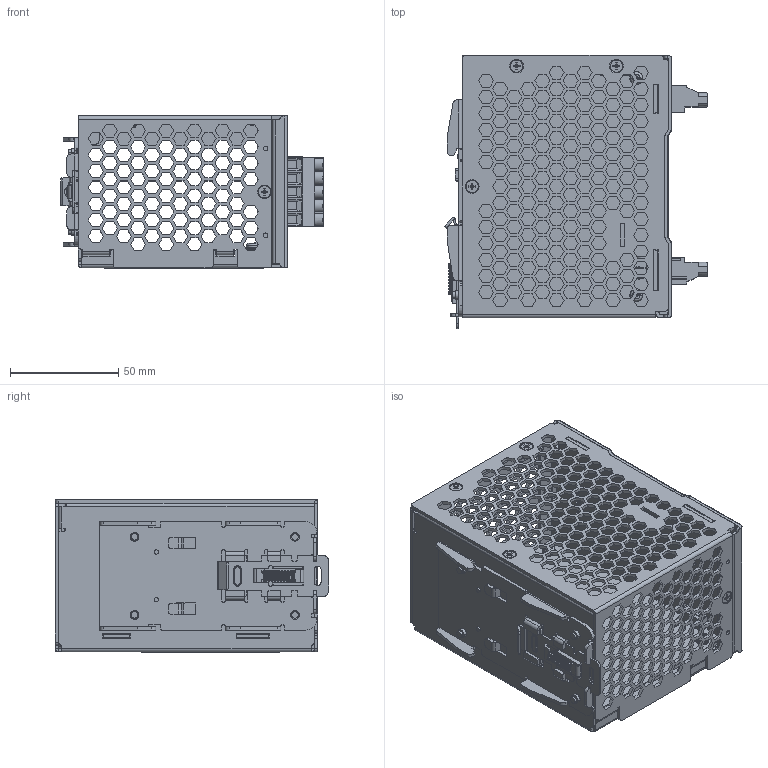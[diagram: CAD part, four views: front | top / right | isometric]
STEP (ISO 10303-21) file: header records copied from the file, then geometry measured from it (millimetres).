
FILE_DESCRIPTION((''),'2;1');
FILE_NAME('PD00-DRB-24V040ABN_ASM','2014-09-17T',('Pattrapol.seng'),(''),'PRO/ENGINEER BY PARAMETRIC TECHNOLOGY CORPORATION, 2010180','PRO/ENGINEER BY PARAMETRIC TECHNOLOGY CORPORATION, 2010180','');
FILE_SCHEMA(('CONFIG_CONTROL_DESIGN'));
Products named in the file (26): 331064530506; 331064530506_A1_STUD; 331064530506_ASM; 331064520202; 330310970202; 3268190300; 2958066300_MAINBOARD; 3000052333_SLIDE_SWITCH; ASSY_PWB_DRB-24V040ABN_ASM; 2968138303_DCT-1383; 2968121401_DCT-1214; 2968121500_DCT-1215; 3073461946_CN1; 3073461746_CN2; EE_LED701; 3350141500; ASSY_DCT-1383_ASM; 3461303000; 3460088100; 3462026200; ASSY_BASE_ASM; 3100300600; 3100020600; 3105318101; 326354720101; PD00-DRB-24V040ABN_ASM
Assembly tree (37 placements, depth 3):
  PD00-DRB-24V040ABN_ASM
    331064530506_ASM
      331064530506
      331064530506_A1_STUD  x2
    331064520202
    330310970202
    3268190300
    ASSY_PWB_DRB-24V040ABN_ASM
      2958066300_MAINBOARD
      3000052333_SLIDE_SWITCH
    ASSY_DCT-1383_ASM
      2968138303_DCT-1383
      2968121401_DCT-1214
      2968121500_DCT-1215
      3073461946_CN1
      3073461746_CN2
      EE_LED701
      3350141500  x4
    ASSY_BASE_ASM
      3461303000
      3460088100
      3462026200
    3100300600  x2
    3100020600  x4
    3105318101  x5
    326354720101
Bounding box: 121.24 x 126 x 70.1 mm (x, y, z)
Volume: 113242.6 mm3; surface area: 182679.5 mm2
Topology: 35 solids, 35 shells, 8210 faces, 22434 edges, 14597 vertices
Faces by surface type: plane 5334, extrusion 1698, cylinder 856, cone 160, bspline 110, torus 52
Entity records: 256710 total; most frequent: CARTESIAN_POINT 62437, ORIENTED_EDGE 42820, DIRECTION 33454, EDGE_CURVE 21410, VECTOR 17822, LINE 16124, VERTEX_POINT 14096, EDGE_LOOP 8900
